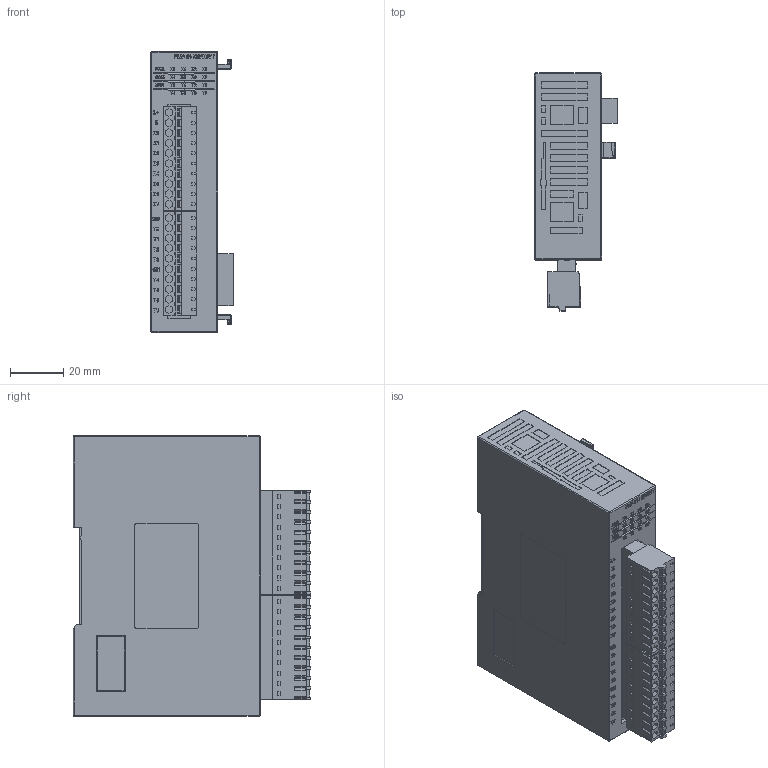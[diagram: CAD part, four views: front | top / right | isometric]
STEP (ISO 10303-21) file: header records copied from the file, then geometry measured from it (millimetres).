
FILE_DESCRIPTION(('STEP AP242'), '1');
FILE_NAME('PMP-01-E8PX8YT', '', ('UNSPECIFIED'), ('UNSPECIFIED'), 'C3D Converter', 'C3D Toolkit', '');
FILE_SCHEMA(('AP242_MANAGED_MODEL_BASED_3D_ENGINEERING_MIM_LF { 1 0 10303 442 1 1 4 }'));
Length unit declared in the file: millimetre
Products named in the file (1): PMP-01-E8PX8YT
Bounding box: 30.8 x 88.99 x 105 mm (x, y, z)
Surface area: 42224.7 mm2
Topology: 82 solids, 123 shells, 3098 faces, 8402 edges, 5634 vertices
Faces by surface type: plane 2247, bspline 608, extrusion 131, cylinder 112
Full cylindrical faces by diameter (mm): 3 x20
Entity records: 208720 total; most frequent: CARTESIAN_POINT 111877, ORIENTED_EDGE 16442, DIRECTION 10920, EDGE_CURVE 8381, VERTEX_POINT 5634, VECTOR 5374, LINE 5243, FACE_BOUND 3319
